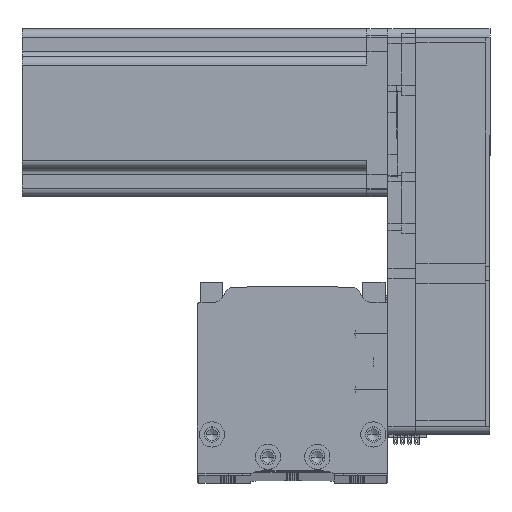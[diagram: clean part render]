
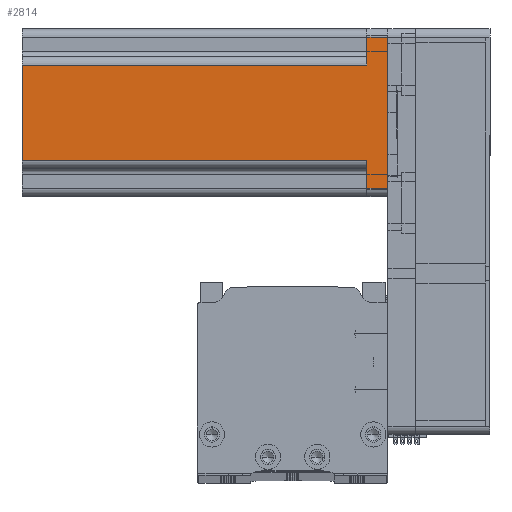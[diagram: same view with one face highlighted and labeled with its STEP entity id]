
A CAD part, top view. The second image highlights one B-rep face of the part: STEP entity #2814.
In plain terms, the highlighted planar face has unit normal (0, 0, 1) as drawn and (0, -1, 0) by its records, which use the part's own axes.
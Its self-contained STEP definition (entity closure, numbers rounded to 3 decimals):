
#308 = EDGE_CURVE ( 'NONE', #48466, #9320, #3993, .T. ) ;
#352 = ORIENTED_EDGE ( 'NONE', *, *, #29090, .F. ) ;
#1185 = CARTESIAN_POINT ( 'NONE',  ( 30., -30., 130.7 ) ) ;
#2151 = CARTESIAN_POINT ( 'NONE',  ( -17., -30., 7.5 ) ) ;
#2814 = ADVANCED_FACE ( 'NONE', ( #59232 ), #44991, .F. ) ;
#3993 = LINE ( 'NONE', #30637, #15359 ) ;
#4559 = LINE ( 'NONE', #36554, #40490 ) ;
#6065 = DIRECTION ( 'NONE',  ( -1., 0., 0. ) ) ;
#6227 = ORIENTED_EDGE ( 'NONE', *, *, #24044, .T. ) ;
#7190 = DIRECTION ( 'NONE',  ( -1., 0., 0. ) ) ;
#8237 = ORIENTED_EDGE ( 'NONE', *, *, #58001, .T. ) ;
#8528 = LINE ( 'NONE', #42136, #46079 ) ;
#9320 = VERTEX_POINT ( 'NONE', #2151 ) ;
#12930 = VECTOR ( 'NONE', #56017, 1000. ) ;
#13675 = VERTEX_POINT ( 'NONE', #47084 ) ;
#15359 = VECTOR ( 'NONE', #57392, 1000. ) ;
#15429 = ORIENTED_EDGE ( 'NONE', *, *, #46098, .T. ) ;
#15556 = EDGE_CURVE ( 'NONE', #27458, #31508, #4559, .T. ) ;
#18282 = EDGE_LOOP ( 'NONE', ( #352, #55932, #48121, #6227, #8237, #28529, #35864, #15429 ) ) ;
#19388 = LINE ( 'NONE', #28875, #45506 ) ;
#22783 = LINE ( 'NONE', #48812, #48937 ) ;
#23483 = VERTEX_POINT ( 'NONE', #44698 ) ;
#24044 = EDGE_CURVE ( 'NONE', #48466, #13675, #60793, .T. ) ;
#27458 = VERTEX_POINT ( 'NONE', #50074 ) ;
#27510 = VECTOR ( 'NONE', #33889, 1000. ) ;
#28529 = ORIENTED_EDGE ( 'NONE', *, *, #42152, .T. ) ;
#28875 = CARTESIAN_POINT ( 'NONE',  ( 17., -30., 130.7 ) ) ;
#29090 = EDGE_CURVE ( 'NONE', #53383, #23483, #8528, .T. ) ;
#29654 = DIRECTION ( 'NONE',  ( 0., 0., -1. ) ) ;
#30637 = CARTESIAN_POINT ( 'NONE',  ( -20., -30., 7.5 ) ) ;
#31455 = AXIS2_PLACEMENT_3D ( 'NONE', #1185, #35419, #6065 ) ;
#31508 = VERTEX_POINT ( 'NONE', #56557 ) ;
#33889 = DIRECTION ( 'NONE',  ( 0., 0., -1. ) ) ;
#34769 = VECTOR ( 'NONE', #29654, 1000. ) ;
#35419 = DIRECTION ( 'NONE',  ( 0., 1., 0. ) ) ;
#35864 = ORIENTED_EDGE ( 'NONE', *, *, #15556, .T. ) ;
#36554 = CARTESIAN_POINT ( 'NONE',  ( 20., -30., 7.5 ) ) ;
#39414 = CARTESIAN_POINT ( 'NONE',  ( -27., -30., 7.5 ) ) ;
#40490 = VECTOR ( 'NONE', #7190, 1000. ) ;
#42047 = LINE ( 'NONE', #43659, #27510 ) ;
#42136 = CARTESIAN_POINT ( 'NONE',  ( 30., -30., 130.7 ) ) ;
#42152 = EDGE_CURVE ( 'NONE', #47278, #27458, #52071, .T. ) ;
#43659 = CARTESIAN_POINT ( 'NONE',  ( -17., -30., 130.7 ) ) ;
#43841 = DIRECTION ( 'NONE',  ( 0., 0., 1. ) ) ;
#44698 = CARTESIAN_POINT ( 'NONE',  ( 17., -30., 130.7 ) ) ;
#44991 = PLANE ( 'NONE',  #31455 ) ;
#45506 = VECTOR ( 'NONE', #43841, 1000. ) ;
#46079 = VECTOR ( 'NONE', #47053, 1000. ) ;
#46098 = EDGE_CURVE ( 'NONE', #31508, #23483, #19388, .T. ) ;
#47053 = DIRECTION ( 'NONE',  ( 1., 0., 0. ) ) ;
#47084 = CARTESIAN_POINT ( 'NONE',  ( -27., -30., 0. ) ) ;
#47278 = VERTEX_POINT ( 'NONE', #55242 ) ;
#48121 = ORIENTED_EDGE ( 'NONE', *, *, #308, .F. ) ;
#48466 = VERTEX_POINT ( 'NONE', #39414 ) ;
#48812 = CARTESIAN_POINT ( 'NONE',  ( 30., -30., 0. ) ) ;
#48937 = VECTOR ( 'NONE', #58900, 1000. ) ;
#50074 = CARTESIAN_POINT ( 'NONE',  ( 27., -30., 7.5 ) ) ;
#51087 = CARTESIAN_POINT ( 'NONE',  ( 27., -30., 130.7 ) ) ;
#51434 = EDGE_CURVE ( 'NONE', #53383, #9320, #42047, .T. ) ;
#52071 = LINE ( 'NONE', #51087, #12930 ) ;
#53383 = VERTEX_POINT ( 'NONE', #56607 ) ;
#55242 = CARTESIAN_POINT ( 'NONE',  ( 27., -30., 0. ) ) ;
#55932 = ORIENTED_EDGE ( 'NONE', *, *, #51434, .T. ) ;
#56017 = DIRECTION ( 'NONE',  ( 0., 0., 1. ) ) ;
#56557 = CARTESIAN_POINT ( 'NONE',  ( 17., -30., 7.5 ) ) ;
#56607 = CARTESIAN_POINT ( 'NONE',  ( -17., -30., 130.7 ) ) ;
#57392 = DIRECTION ( 'NONE',  ( 1., 0., 0. ) ) ;
#58001 = EDGE_CURVE ( 'NONE', #13675, #47278, #22783, .T. ) ;
#58778 = CARTESIAN_POINT ( 'NONE',  ( -27., -30., 130.7 ) ) ;
#58900 = DIRECTION ( 'NONE',  ( 1., 0., 0. ) ) ;
#59232 = FACE_OUTER_BOUND ( 'NONE', #18282, .T. ) ;
#60793 = LINE ( 'NONE', #58778, #34769 ) ;
